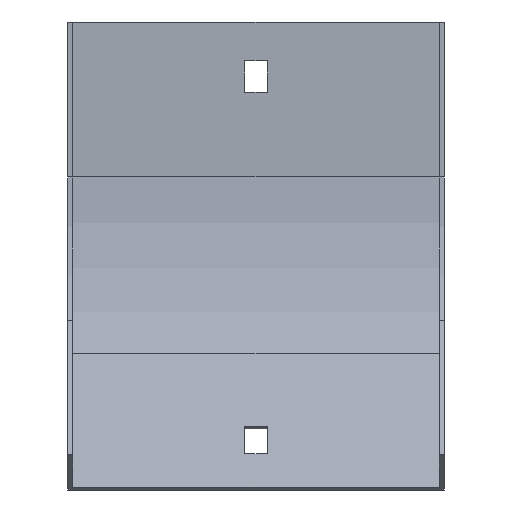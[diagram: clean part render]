
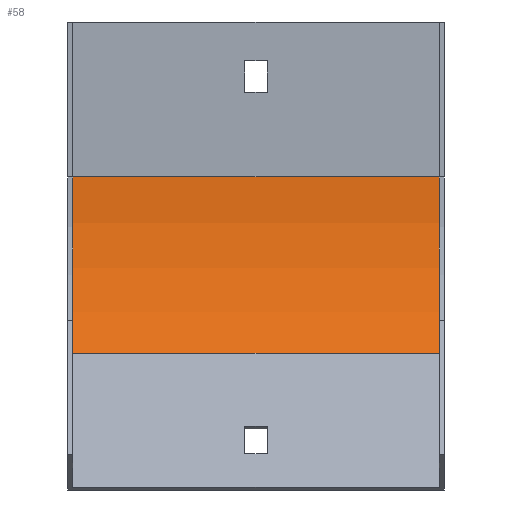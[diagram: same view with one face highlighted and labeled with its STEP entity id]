
A CAD part, front view. The second image highlights one B-rep face of the part: STEP entity #58.
In plain terms, the highlighted cylindrical face has radius 100 mm (diameter 200 mm), a partial arc.
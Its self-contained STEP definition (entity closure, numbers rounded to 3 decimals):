
#8 = CARTESIAN_POINT ( 'NONE',  ( 52., -101.5, -44. ) ) ;
#9 = ORIENTED_EDGE ( 'NONE', *, *, #203, .T. ) ;
#55 = CARTESIAN_POINT ( 'NONE',  ( 52., -14.897, -94. ) ) ;
#58 = ADVANCED_FACE ( 'NONE', ( #689 ), #98, .F. ) ;
#60 = CARTESIAN_POINT ( 'NONE',  ( 53.5, -1.5, -44. ) ) ;
#61 = DIRECTION ( 'NONE',  ( -1., 0., 0. ) ) ;
#64 = AXIS2_PLACEMENT_3D ( 'NONE', #617, #771, #630 ) ;
#72 = VERTEX_POINT ( 'NONE', #297 ) ;
#98 = CYLINDRICAL_SURFACE ( 'NONE', #64, 100. ) ;
#147 = CARTESIAN_POINT ( 'NONE',  ( 52., -1.5, -44. ) ) ;
#157 = LINE ( 'NONE', #60, #546 ) ;
#182 = LINE ( 'NONE', #389, #279 ) ;
#197 = DIRECTION ( 'NONE',  ( 0., 0., 1. ) ) ;
#203 = EDGE_CURVE ( 'NONE', #434, #72, #157, .T. ) ;
#225 = EDGE_CURVE ( 'NONE', #790, #72, #318, .T. ) ;
#279 = VECTOR ( 'NONE', #61, 1000. ) ;
#297 = CARTESIAN_POINT ( 'NONE',  ( -52., -1.5, -44. ) ) ;
#316 = DIRECTION ( 'NONE',  ( -1., 0., 0. ) ) ;
#318 = CIRCLE ( 'NONE', #388, 100. ) ;
#372 = CIRCLE ( 'NONE', #603, 100. ) ;
#388 = AXIS2_PLACEMENT_3D ( 'NONE', #819, #723, #197 ) ;
#389 = CARTESIAN_POINT ( 'NONE',  ( 53.5, -14.897, -94. ) ) ;
#434 = VERTEX_POINT ( 'NONE', #147 ) ;
#470 = DIRECTION ( 'NONE',  ( 1., 0., 0. ) ) ;
#493 = ORIENTED_EDGE ( 'NONE', *, *, #685, .T. ) ;
#537 = VERTEX_POINT ( 'NONE', #55 ) ;
#546 = VECTOR ( 'NONE', #316, 1000. ) ;
#547 = EDGE_CURVE ( 'NONE', #537, #790, #182, .T. ) ;
#589 = EDGE_LOOP ( 'NONE', ( #606, #760, #493, #9 ) ) ;
#603 = AXIS2_PLACEMENT_3D ( 'NONE', #8, #470, #742 ) ;
#606 = ORIENTED_EDGE ( 'NONE', *, *, #225, .F. ) ;
#612 = CARTESIAN_POINT ( 'NONE',  ( -52., -14.897, -94. ) ) ;
#617 = CARTESIAN_POINT ( 'NONE',  ( 53.5, -101.5, -44. ) ) ;
#630 = DIRECTION ( 'NONE',  ( 0., 0., 1. ) ) ;
#685 = EDGE_CURVE ( 'NONE', #537, #434, #372, .T. ) ;
#689 = FACE_OUTER_BOUND ( 'NONE', #589, .T. ) ;
#723 = DIRECTION ( 'NONE',  ( 1., 0., 0. ) ) ;
#742 = DIRECTION ( 'NONE',  ( 0., 0., 1. ) ) ;
#760 = ORIENTED_EDGE ( 'NONE', *, *, #547, .F. ) ;
#771 = DIRECTION ( 'NONE',  ( -1., 0., 0. ) ) ;
#790 = VERTEX_POINT ( 'NONE', #612 ) ;
#819 = CARTESIAN_POINT ( 'NONE',  ( -52., -101.5, -44. ) ) ;
